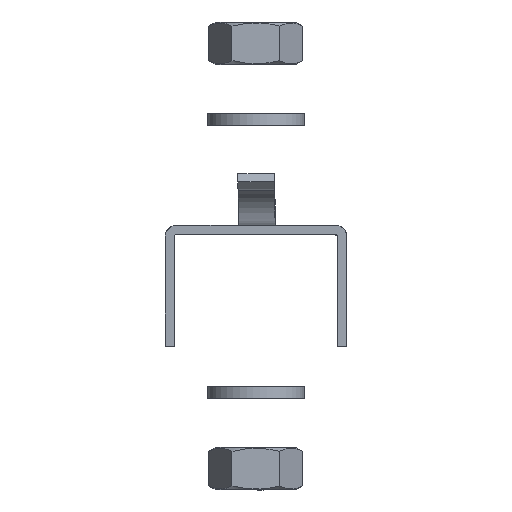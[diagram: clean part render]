
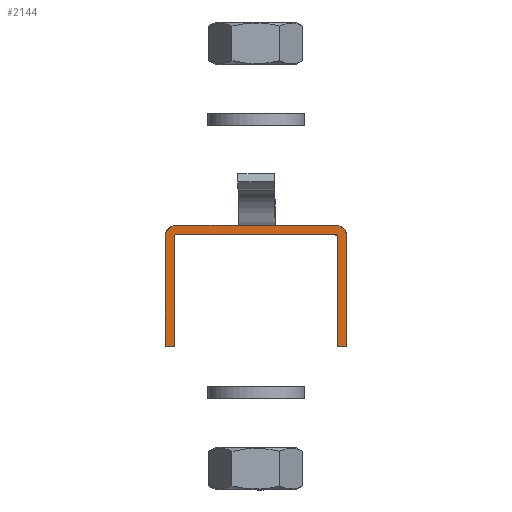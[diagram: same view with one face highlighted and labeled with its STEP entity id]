
A CAD part, front view. The second image highlights one B-rep face of the part: STEP entity #2144.
In plain terms, the highlighted planar face has unit normal (0, -1, 0).
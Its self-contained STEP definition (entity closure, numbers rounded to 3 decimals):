
#496=(
BOUNDED_CURVE()
B_SPLINE_CURVE(2,(#10576,#10577,#10578,#10579,#10580,#10581,#10582,#10583,
#10584),.UNSPECIFIED.,.F.,.F.)
B_SPLINE_CURVE_WITH_KNOTS((3,2,2,2,3),(-160.571,-159.785,
-133.785,-133.,-115.),.UNSPECIFIED.)
CURVE()
GEOMETRIC_REPRESENTATION_ITEM()
RATIONAL_B_SPLINE_CURVE((1.,0.707,1.,1.,1.,0.707,
1.,1.,1.))
REPRESENTATION_ITEM($)
);
#497=(
BOUNDED_CURVE()
B_SPLINE_CURVE(2,(#10589,#10590,#10591,#10592,#10593,#10594,#10595,#10596,
#10597,#10598,#10599),.UNSPECIFIED.,.F.,.F.)
B_SPLINE_CURVE_WITH_KNOTS((3,2,2,2,2,3),(-113.5,-95.5,-92.358,
-66.358,-63.217,-45.217),.UNSPECIFIED.)
CURVE()
GEOMETRIC_REPRESENTATION_ITEM()
RATIONAL_B_SPLINE_CURVE((1.,1.,1.,0.707,1.,1.,1.,0.707,
1.,1.,1.))
REPRESENTATION_ITEM($)
);
#2144=ADVANCED_FACE($,(#2319),#4853,.T.);
#2319=FACE_OUTER_BOUND($,#2514,.T.);
#2514=EDGE_LOOP($,(#3176,#3177,#3178,#3179,#3180));
#3176=ORIENTED_EDGE($,*,*,#3954,.T.);
#3177=ORIENTED_EDGE($,*,*,#3958,.T.);
#3178=ORIENTED_EDGE($,*,*,#3957,.T.);
#3179=ORIENTED_EDGE($,*,*,#3956,.T.);
#3180=ORIENTED_EDGE($,*,*,#3955,.T.);
#3954=EDGE_CURVE($,#4672,#4676,#496,.T.);
#3955=EDGE_CURVE($,#4673,#4672,#5119,.T.);
#3956=EDGE_CURVE($,#4674,#4673,#5120,.T.);
#3957=EDGE_CURVE($,#4675,#4674,#497,.T.);
#3958=EDGE_CURVE($,#4676,#4675,#5121,.T.);
#4672=VERTEX_POINT($,#10603);
#4673=VERTEX_POINT($,#10604);
#4674=VERTEX_POINT($,#10605);
#4675=VERTEX_POINT($,#10606);
#4676=VERTEX_POINT($,#10607);
#4853=PLANE($,#5294);
#5119=B_SPLINE_CURVE_WITH_KNOTS($,1,(#10585,#10586),.UNSPECIFIED.,.F.,.F.,
(2,2),(-43.717,-25.717),.UNSPECIFIED.);
#5120=B_SPLINE_CURVE_WITH_KNOTS($,1,(#10587,#10588),.UNSPECIFIED.,.F.,.F.,
(2,2),(-45.217,-43.717),.UNSPECIFIED.);
#5121=B_SPLINE_CURVE_WITH_KNOTS($,1,(#10600,#10601),.UNSPECIFIED.,.F.,.F.,
(2,2),(-115.,-113.5),.UNSPECIFIED.);
#5294=AXIS2_PLACEMENT_3D($,#10602,#5351,$);
#5351=DIRECTION($,(0.,-1.,0.));
#10576=CARTESIAN_POINT($,(-15.,-563.969,-2.));
#10577=CARTESIAN_POINT($,(-15.,-563.969,-1.5));
#10578=CARTESIAN_POINT($,(-14.5,-563.969,-1.5));
#10579=CARTESIAN_POINT($,(-1.5,-563.969,-1.5));
#10580=CARTESIAN_POINT($,(11.5,-563.969,-1.5));
#10581=CARTESIAN_POINT($,(12.,-563.969,-1.5));
#10582=CARTESIAN_POINT($,(12.,-563.969,-2.));
#10583=CARTESIAN_POINT($,(12.,-563.969,-11.));
#10584=CARTESIAN_POINT($,(12.,-563.969,-20.));
#10585=CARTESIAN_POINT($,(-15.,-563.969,-20.));
#10586=CARTESIAN_POINT($,(-15.,-563.969,-2.));
#10587=CARTESIAN_POINT($,(-16.5,-563.969,-20.));
#10588=CARTESIAN_POINT($,(-15.,-563.969,-20.));
#10589=CARTESIAN_POINT($,(13.5,-563.969,-20.));
#10590=CARTESIAN_POINT($,(13.5,-563.969,-11.));
#10591=CARTESIAN_POINT($,(13.5,-563.969,-2.));
#10592=CARTESIAN_POINT($,(13.5,-563.969,0.));
#10593=CARTESIAN_POINT($,(11.5,-563.969,0.));
#10594=CARTESIAN_POINT($,(-1.5,-563.969,0.));
#10595=CARTESIAN_POINT($,(-14.5,-563.969,0.));
#10596=CARTESIAN_POINT($,(-16.5,-563.969,0.));
#10597=CARTESIAN_POINT($,(-16.5,-563.969,-2.));
#10598=CARTESIAN_POINT($,(-16.5,-563.969,-11.));
#10599=CARTESIAN_POINT($,(-16.5,-563.969,-20.));
#10600=CARTESIAN_POINT($,(12.,-563.969,-20.));
#10601=CARTESIAN_POINT($,(13.5,-563.969,-20.));
#10602=CARTESIAN_POINT($,(-16.5,-563.969,-20.));
#10603=CARTESIAN_POINT($,(-15.,-563.969,-2.));
#10604=CARTESIAN_POINT($,(-15.,-563.969,-20.));
#10605=CARTESIAN_POINT($,(-16.5,-563.969,-20.));
#10606=CARTESIAN_POINT($,(13.5,-563.969,-20.));
#10607=CARTESIAN_POINT($,(12.,-563.969,-20.));
